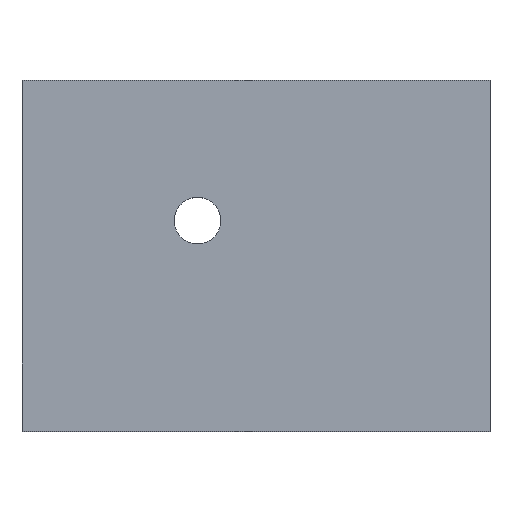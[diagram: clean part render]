
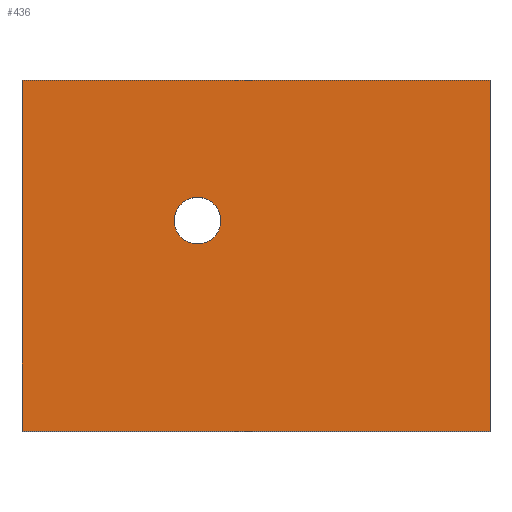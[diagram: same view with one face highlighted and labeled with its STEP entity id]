
A CAD part, top view. The second image highlights one B-rep face of the part: STEP entity #436.
In plain terms, the highlighted planar face has unit normal (0, 0, 1).
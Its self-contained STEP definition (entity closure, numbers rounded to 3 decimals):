
#8 = DIRECTION ( 'NONE',  ( 0., -1., 0. ) ) ;
#11 = VERTEX_POINT ( 'NONE', #266 ) ;
#12 = AXIS2_PLACEMENT_3D ( 'NONE', #123, #243, #317 ) ;
#15 = CARTESIAN_POINT ( 'NONE',  ( 40., 0., 0. ) ) ;
#22 = DIRECTION ( 'NONE',  ( 0., 0., -1. ) ) ;
#23 = ORIENTED_EDGE ( 'NONE', *, *, #278, .T. ) ;
#48 = LINE ( 'NONE', #147, #348 ) ;
#60 = VECTOR ( 'NONE', #8, 1000. ) ;
#61 = EDGE_LOOP ( 'NONE', ( #403, #80, #375, #168 ) ) ;
#63 = EDGE_CURVE ( 'NONE', #74, #11, #260, .T. ) ;
#72 = DIRECTION ( 'NONE',  ( -1., 0., 0. ) ) ;
#74 = VERTEX_POINT ( 'NONE', #115 ) ;
#76 = VERTEX_POINT ( 'NONE', #307 ) ;
#77 = DIRECTION ( 'NONE',  ( 0., 1., 0. ) ) ;
#80 = ORIENTED_EDGE ( 'NONE', *, *, #157, .F. ) ;
#104 = AXIS2_PLACEMENT_3D ( 'NONE', #423, #244, #77 ) ;
#108 = DIRECTION ( 'NONE',  ( 0., -1., 0. ) ) ;
#111 = EDGE_CURVE ( 'NONE', #11, #287, #128, .T. ) ;
#115 = CARTESIAN_POINT ( 'NONE',  ( 40., 30., 0. ) ) ;
#117 = CARTESIAN_POINT ( 'NONE',  ( 40., 0., 0. ) ) ;
#123 = CARTESIAN_POINT ( 'NONE',  ( 15., 18., 0. ) ) ;
#128 = LINE ( 'NONE', #456, #207 ) ;
#145 = DIRECTION ( 'NONE',  ( -1., 0., 0. ) ) ;
#147 = CARTESIAN_POINT ( 'NONE',  ( 40., 0., 0. ) ) ;
#157 = EDGE_CURVE ( 'NONE', #76, #287, #48, .T. ) ;
#159 = LINE ( 'NONE', #117, #60 ) ;
#166 = CARTESIAN_POINT ( 'NONE',  ( 15., 16., 0. ) ) ;
#168 = ORIENTED_EDGE ( 'NONE', *, *, #63, .T. ) ;
#194 = ORIENTED_EDGE ( 'NONE', *, *, #212, .T. ) ;
#207 = VECTOR ( 'NONE', #108, 1000. ) ;
#212 = EDGE_CURVE ( 'NONE', #424, #365, #358, .T. ) ;
#228 = CARTESIAN_POINT ( 'NONE',  ( 40., 30., 0. ) ) ;
#230 = CIRCLE ( 'NONE', #12, 2. ) ;
#243 = DIRECTION ( 'NONE',  ( 0., 0., -1. ) ) ;
#244 = DIRECTION ( 'NONE',  ( 0., 0., -1. ) ) ;
#246 = PLANE ( 'NONE',  #373 ) ;
#251 = CARTESIAN_POINT ( 'NONE',  ( 15., 20., 0. ) ) ;
#260 = LINE ( 'NONE', #228, #301 ) ;
#266 = CARTESIAN_POINT ( 'NONE',  ( 0., 30., 0. ) ) ;
#278 = EDGE_CURVE ( 'NONE', #365, #424, #230, .T. ) ;
#283 = CARTESIAN_POINT ( 'NONE',  ( 0., 0., 0. ) ) ;
#287 = VERTEX_POINT ( 'NONE', #283 ) ;
#300 = EDGE_CURVE ( 'NONE', #74, #76, #159, .T. ) ;
#301 = VECTOR ( 'NONE', #145, 1000. ) ;
#307 = CARTESIAN_POINT ( 'NONE',  ( 40., 0., 0. ) ) ;
#317 = DIRECTION ( 'NONE',  ( 0., 1., 0. ) ) ;
#348 = VECTOR ( 'NONE', #72, 1000. ) ;
#358 = CIRCLE ( 'NONE', #104, 2. ) ;
#365 = VERTEX_POINT ( 'NONE', #251 ) ;
#373 = AXIS2_PLACEMENT_3D ( 'NONE', #15, #22, #429 ) ;
#375 = ORIENTED_EDGE ( 'NONE', *, *, #300, .F. ) ;
#403 = ORIENTED_EDGE ( 'NONE', *, *, #111, .T. ) ;
#404 = FACE_OUTER_BOUND ( 'NONE', #61, .T. ) ;
#423 = CARTESIAN_POINT ( 'NONE',  ( 15., 18., 0. ) ) ;
#424 = VERTEX_POINT ( 'NONE', #166 ) ;
#429 = DIRECTION ( 'NONE',  ( -1., 0., 0. ) ) ;
#436 = ADVANCED_FACE ( 'NONE', ( #459, #404 ), #246, .F. ) ;
#446 = EDGE_LOOP ( 'NONE', ( #23, #194 ) ) ;
#456 = CARTESIAN_POINT ( 'NONE',  ( 0., 0., 0. ) ) ;
#459 = FACE_BOUND ( 'NONE', #446, .T. ) ;
